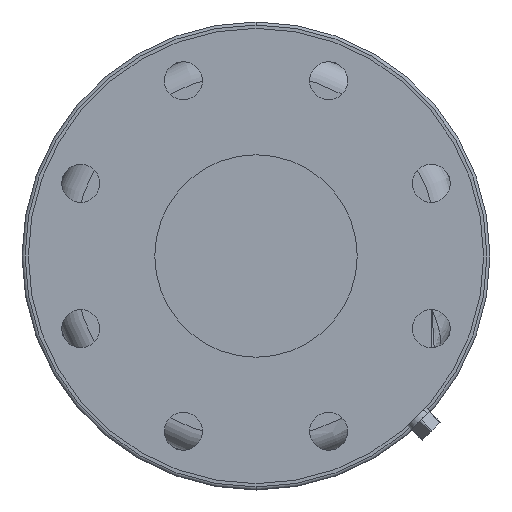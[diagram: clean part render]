
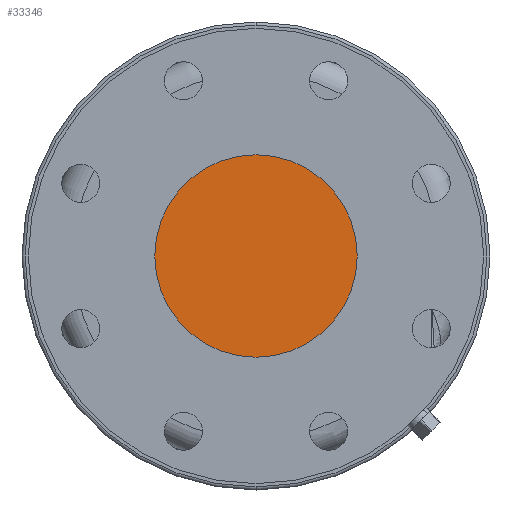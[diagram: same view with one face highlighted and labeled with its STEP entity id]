
A CAD part, front view. The second image highlights one B-rep face of the part: STEP entity #33346.
In plain terms, the highlighted planar face has unit normal (0, -1, 0).
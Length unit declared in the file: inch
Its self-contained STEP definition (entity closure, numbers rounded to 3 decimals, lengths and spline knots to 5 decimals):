
#1227 = PLANE ( 'NONE',  #29532 ) ;
#2157 = CIRCLE ( 'NONE', #22580, 2. ) ;
#4789 = DIRECTION ( 'NONE',  ( 1., 0., 0. ) ) ;
#12491 = EDGE_LOOP ( 'NONE', ( #30140, #44388 ) ) ;
#19012 = EDGE_CURVE ( 'NONE', #31205, #20101, #24879, .T. ) ;
#19037 = FACE_OUTER_BOUND ( 'NONE', #12491, .T. ) ;
#20001 = CARTESIAN_POINT ( 'NONE',  ( 0., -12.4239, 0. ) ) ;
#20101 = VERTEX_POINT ( 'NONE', #37338 ) ;
#20144 = DIRECTION ( 'NONE',  ( 0., -1., 0. ) ) ;
#22580 = AXIS2_PLACEMENT_3D ( 'NONE', #20001, #45018, #23602 ) ;
#23602 = DIRECTION ( 'NONE',  ( 1., 0., 0. ) ) ;
#24879 = CIRCLE ( 'NONE', #31071, 2. ) ;
#26255 = DIRECTION ( 'NONE',  ( 0., -1., 0. ) ) ;
#29532 = AXIS2_PLACEMENT_3D ( 'NONE', #33256, #26255, #4789 ) ;
#30140 = ORIENTED_EDGE ( 'NONE', *, *, #19012, .T. ) ;
#31071 = AXIS2_PLACEMENT_3D ( 'NONE', #41548, #20144, #45175 ) ;
#31205 = VERTEX_POINT ( 'NONE', #43552 ) ;
#33256 = CARTESIAN_POINT ( 'NONE',  ( 2.26413, -12.4239, 0. ) ) ;
#33346 = ADVANCED_FACE ( 'NONE', ( #19037 ), #1227, .T. ) ;
#37338 = CARTESIAN_POINT ( 'NONE',  ( 0., -12.4239, -2. ) ) ;
#37731 = EDGE_CURVE ( 'NONE', #20101, #31205, #2157, .T. ) ;
#41548 = CARTESIAN_POINT ( 'NONE',  ( 0., -12.4239, 0. ) ) ;
#43552 = CARTESIAN_POINT ( 'NONE',  ( 0., -12.4239, 2. ) ) ;
#44388 = ORIENTED_EDGE ( 'NONE', *, *, #37731, .T. ) ;
#45018 = DIRECTION ( 'NONE',  ( 0., -1., 0. ) ) ;
#45175 = DIRECTION ( 'NONE',  ( 1., 0., 0. ) ) ;
